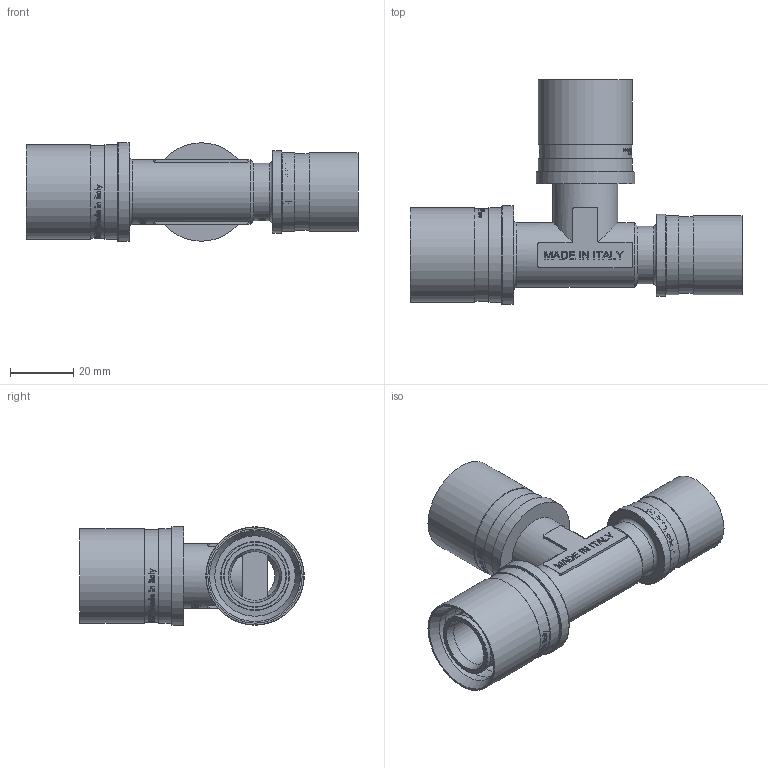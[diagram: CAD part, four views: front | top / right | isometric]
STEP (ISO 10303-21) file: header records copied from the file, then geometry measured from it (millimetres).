
FILE_DESCRIPTION(/* description */ (''),/* implementation_level */ '2;1');
FILE_NAME(/* name */ 'F:\Артём\00000\Работа удаленка\Аксеальные фитинги\VTm.431.BG.252520.stp',/* time_stamp */ '2021-01-26T12:59:48+03:00',/* author */ ('almis'),/* organization */ (''),/* preprocessor_version */ 'ST-DEVELOPER v18',/* originating_system */ 'Autodesk Inventor 2020',/* authorisation */ '');
FILE_SCHEMA (('AUTOMOTIVE_DESIGN { 1 0 10303 214 3 1 1 }'));
Length unit declared in the file: millimetre
Products named in the file (1): VTm.403.BG.001616
Bounding box: 105.12 x 71.11 x 31.2 mm (x, y, z)
Volume: 39211.7 mm3; surface area: 34075 mm2
Topology: 1 solids, 49 shells, 2534 faces, 6848 edges, 4608 vertices
Faces by surface type: bspline 1264, plane 898, cylinder 305, torus 46, cone 21
Full cylindrical faces by diameter (mm): 12.6 x1, 15.4 x1, 15.5 x1, 15.7 x5, 16.5 x4, 18.2 x1, 18.3 x11, 19.8 x8, 20.5 x2, 20.65 x2, 21.8 x2, 24.3 x1, 25 x2, 25.5 x4, 26 x1, 29.3 x2, 29.85 x4, 31.2 x2
Entity records: 103532 total; most frequent: CARTESIAN_POINT 47233, ORIENTED_EDGE 13696, DIRECTION 8022, EDGE_CURVE 6848, VERTEX_POINT 4608, LINE 3090, VECTOR 3090, EDGE_LOOP 2758
